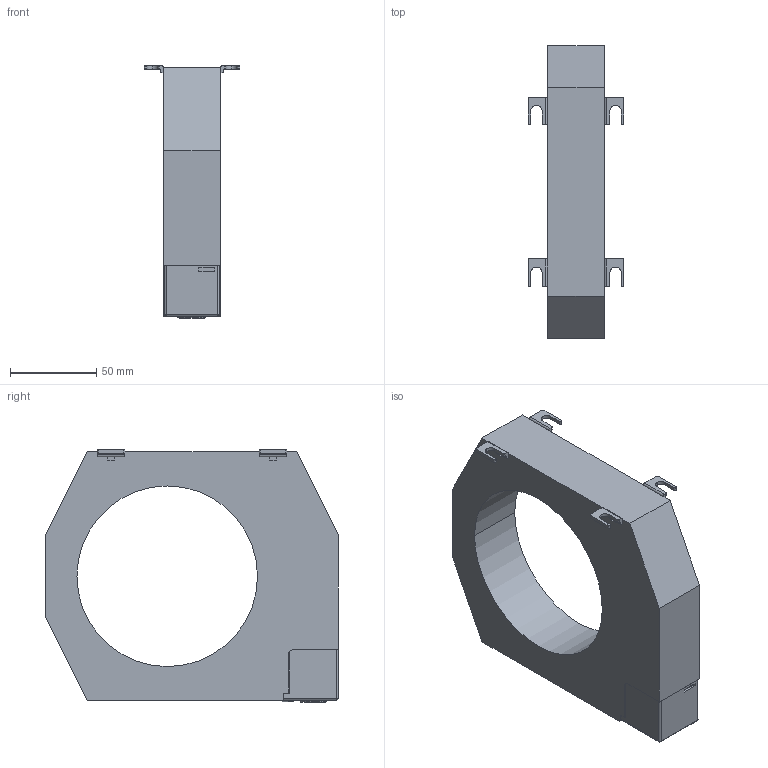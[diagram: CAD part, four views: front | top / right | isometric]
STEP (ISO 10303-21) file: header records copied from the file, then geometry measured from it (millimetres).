
FILE_DESCRIPTION (( 'STEP AP214' ), '1' );
FILE_NAME ('LW-SK10000-105.STEP', '2022-08-31T12:32:52', ( 'CAD-SW' ), ( '' ), 'SwSTEP 2.0', 'SolidWorks 2021', '' );
FILE_SCHEMA (( 'AUTOMOTIVE_DESIGN' ));
Length unit declared in the file: millimetre
Products named in the file (6): 09_0404_00_02_01; 09_0404_00_02_02; LW-SK10000-105; LW-SK10000-70_R8; LW-SK10000_-105; 09_0404_00_02
Assembly tree (5 placements, depth 3):
  LW-SK10000-105
    LW-SK10000-70_R8
    LW-SK10000_-105
    09_0404_00_02
      09_0404_00_02_01
      09_0404_00_02_02
Bounding box: 55.7 x 170 x 146.7 mm (x, y, z)
Volume: 447853.8 mm3; surface area: 68772.8 mm2
Topology: 4 solids, 4 shells, 404 faces, 1064 edges, 684 vertices
Faces by surface type: plane 228, cylinder 97, cone 38, bspline 29, torus 10, sphere 2
Entity records: 14656 total; most frequent: CARTESIAN_POINT 4034, ORIENTED_EDGE 2108, DIRECTION 1954, EDGE_CURVE 1054, VERTEX_POINT 684, VECTOR 674, LINE 674, AXIS2_PLACEMENT_3D 640
